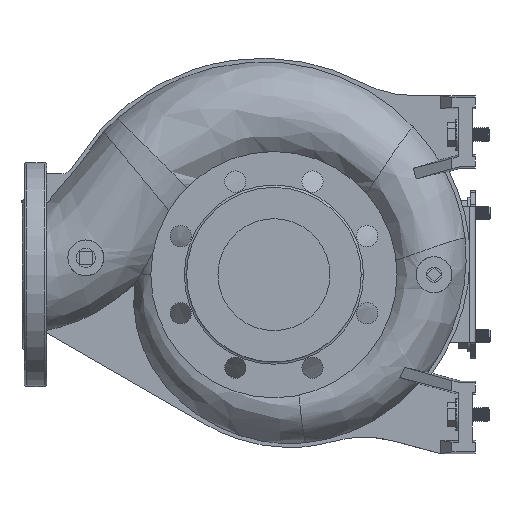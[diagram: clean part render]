
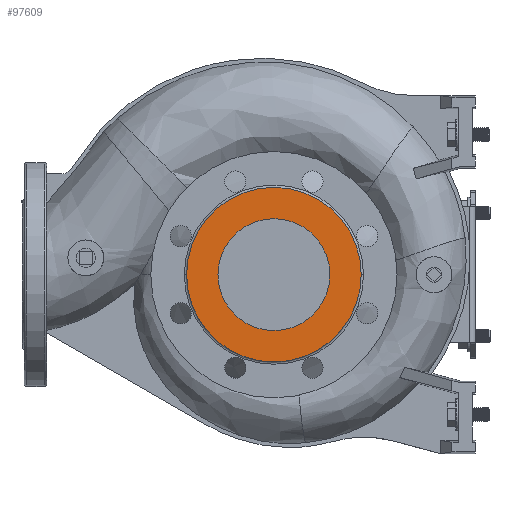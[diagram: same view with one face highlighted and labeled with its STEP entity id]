
A CAD part, left-side view. The second image highlights one B-rep face of the part: STEP entity #97609.
In plain terms, the highlighted planar face has unit normal (-1, 0, 0).
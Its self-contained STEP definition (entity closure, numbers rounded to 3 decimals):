
#6971 = AXIS2_PLACEMENT_3D ( 'NONE', #190598, #116996, #16277 ) ;
#10599 = CIRCLE ( 'NONE', #66283, 50. ) ;
#11416 = AXIS2_PLACEMENT_3D ( 'NONE', #159047, #101874, #117381 ) ;
#12344 = EDGE_CURVE ( 'NONE', #55579, #124661, #10599, .T. ) ;
#16065 = EDGE_CURVE ( 'NONE', #124572, #63799, #48352, .T. ) ;
#16277 = DIRECTION ( 'NONE',  ( 0., -1., 0. ) ) ;
#39519 = FACE_OUTER_BOUND ( 'NONE', #53999, .T. ) ;
#42374 = DIRECTION ( 'NONE',  ( 0., 1., 0. ) ) ;
#45533 = EDGE_LOOP ( 'NONE', ( #133584, #79293 ) ) ;
#48352 = CIRCLE ( 'NONE', #144124, 78. ) ;
#51826 = ORIENTED_EDGE ( 'NONE', *, *, #16065, .T. ) ;
#53999 = EDGE_LOOP ( 'NONE', ( #155341, #51826 ) ) ;
#54362 = EDGE_CURVE ( 'NONE', #124661, #55579, #110244, .T. ) ;
#55579 = VERTEX_POINT ( 'NONE', #147149 ) ;
#56874 = PLANE ( 'NONE',  #95025 ) ;
#60339 = CARTESIAN_POINT ( 'NONE',  ( -125., 50., 0. ) ) ;
#63799 = VERTEX_POINT ( 'NONE', #155863 ) ;
#66283 = AXIS2_PLACEMENT_3D ( 'NONE', #68274, #131913, #184517 ) ;
#68274 = CARTESIAN_POINT ( 'NONE',  ( -125., 0., 0. ) ) ;
#79293 = ORIENTED_EDGE ( 'NONE', *, *, #54362, .F. ) ;
#91271 = CARTESIAN_POINT ( 'NONE',  ( -125., 78., 0. ) ) ;
#95025 = AXIS2_PLACEMENT_3D ( 'NONE', #99477, #144056, #42374 ) ;
#97609 = ADVANCED_FACE ( 'NONE', ( #172121, #39519 ), #56874, .F. ) ;
#99477 = CARTESIAN_POINT ( 'NONE',  ( -125., 0., 0. ) ) ;
#101874 = DIRECTION ( 'NONE',  ( -1., 0., 0. ) ) ;
#102919 = CIRCLE ( 'NONE', #6971, 78. ) ;
#110244 = CIRCLE ( 'NONE', #11416, 50. ) ;
#111892 = CARTESIAN_POINT ( 'NONE',  ( -125., 0., 0. ) ) ;
#116996 = DIRECTION ( 'NONE',  ( -1., 0., 0. ) ) ;
#117381 = DIRECTION ( 'NONE',  ( 0., -1., 0. ) ) ;
#124572 = VERTEX_POINT ( 'NONE', #91271 ) ;
#124661 = VERTEX_POINT ( 'NONE', #60339 ) ;
#131913 = DIRECTION ( 'NONE',  ( -1., 0., 0. ) ) ;
#133584 = ORIENTED_EDGE ( 'NONE', *, *, #12344, .F. ) ;
#144056 = DIRECTION ( 'NONE',  ( 1., 0., 0. ) ) ;
#144124 = AXIS2_PLACEMENT_3D ( 'NONE', #111892, #170925, #186438 ) ;
#147149 = CARTESIAN_POINT ( 'NONE',  ( -125., -50., 0. ) ) ;
#155341 = ORIENTED_EDGE ( 'NONE', *, *, #163174, .T. ) ;
#155863 = CARTESIAN_POINT ( 'NONE',  ( -125., -78., 0. ) ) ;
#159047 = CARTESIAN_POINT ( 'NONE',  ( -125., 0., 0. ) ) ;
#163174 = EDGE_CURVE ( 'NONE', #63799, #124572, #102919, .T. ) ;
#170925 = DIRECTION ( 'NONE',  ( -1., 0., 0. ) ) ;
#172121 = FACE_BOUND ( 'NONE', #45533, .T. ) ;
#184517 = DIRECTION ( 'NONE',  ( 0., -1., 0. ) ) ;
#186438 = DIRECTION ( 'NONE',  ( 0., -1., 0. ) ) ;
#190598 = CARTESIAN_POINT ( 'NONE',  ( -125., 0., 0. ) ) ;
